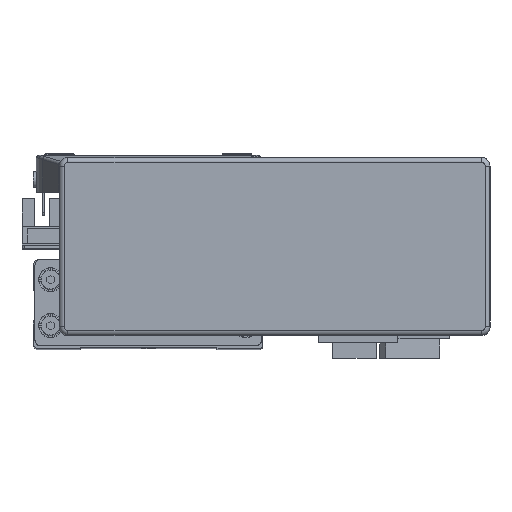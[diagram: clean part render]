
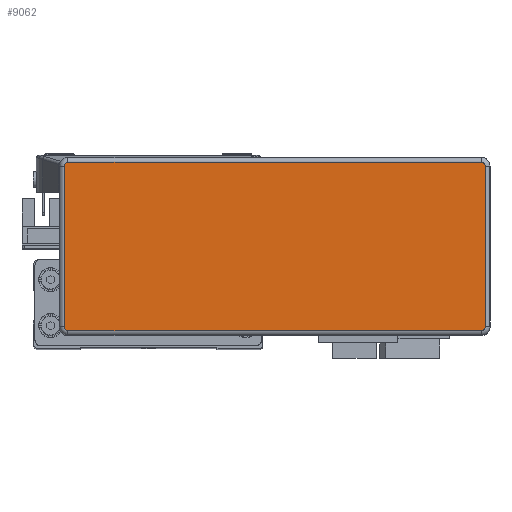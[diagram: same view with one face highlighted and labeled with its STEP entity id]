
A CAD part, top view. The second image highlights one B-rep face of the part: STEP entity #9062.
In plain terms, the highlighted planar face has unit normal (0, 0, 1) as drawn and (0, 0, -1) by its records, which use the part's own axes.
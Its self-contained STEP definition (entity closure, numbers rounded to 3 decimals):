
#3450 = AXIS2_PLACEMENT_3D ( 'NONE', #19296, #19311, #19314 ) ;
#3455 = AXIS2_PLACEMENT_3D ( 'NONE', #19261, #19252, #19265 ) ;
#3494 = AXIS2_PLACEMENT_3D ( 'NONE', #19288, #19295, #19310 ) ;
#3498 = AXIS2_PLACEMENT_3D ( 'NONE', #19138, #19158, #19148 ) ;
#5692 = CARTESIAN_POINT ( 'NONE',  ( -71.995, -29.295, -32.2 ) ) ;
#5701 = CARTESIAN_POINT ( 'NONE',  ( 71.995, 29.295, -32.2 ) ) ;
#5721 = CARTESIAN_POINT ( 'NONE',  ( 71.995, -29.295, -32.2 ) ) ;
#5726 = CARTESIAN_POINT ( 'NONE',  ( -71.995, 29.295, -32.2 ) ) ;
#5782 = CARTESIAN_POINT ( 'NONE',  ( -73.295, -27.995, -32.2 ) ) ;
#5795 = CARTESIAN_POINT ( 'NONE',  ( -73.295, 27.995, -32.2 ) ) ;
#5801 = CARTESIAN_POINT ( 'NONE',  ( 73.295, 27.995, -32.2 ) ) ;
#7759 = VERTEX_POINT ( 'NONE', #41096 ) ;
#7820 = VERTEX_POINT ( 'NONE', #5701 ) ;
#7828 = VERTEX_POINT ( 'NONE', #5692 ) ;
#7831 = VERTEX_POINT ( 'NONE', #5782 ) ;
#7838 = VERTEX_POINT ( 'NONE', #5795 ) ;
#7843 = VERTEX_POINT ( 'NONE', #5721 ) ;
#7847 = VERTEX_POINT ( 'NONE', #5726 ) ;
#7848 = VERTEX_POINT ( 'NONE', #5801 ) ;
#9062 = ADVANCED_FACE ( 'NONE', ( #34721 ), #34039, .F. ) ;
#10455 = EDGE_CURVE ( 'NONE', #7831, #7838, #19531, .T. ) ;
#10456 = EDGE_CURVE ( 'NONE', #7838, #7847, #19547, .T. ) ;
#10464 = EDGE_CURVE ( 'NONE', #7848, #7759, #19528, .T. ) ;
#10477 = EDGE_CURVE ( 'NONE', #7820, #7848, #19629, .T. ) ;
#10490 = EDGE_CURVE ( 'NONE', #7843, #7828, #19580, .T. ) ;
#10494 = EDGE_CURVE ( 'NONE', #7828, #7831, #19582, .T. ) ;
#10498 = EDGE_CURVE ( 'NONE', #7759, #7843, #19577, .T. ) ;
#10507 = EDGE_CURVE ( 'NONE', #7847, #7820, #19627, .T. ) ;
#15736 = AXIS2_PLACEMENT_3D ( 'NONE', #34095, #34113, #34125 ) ;
#17251 = ORIENTED_EDGE ( 'NONE', *, *, #10498, .T. ) ;
#17288 = ORIENTED_EDGE ( 'NONE', *, *, #10464, .T. ) ;
#19138 = CARTESIAN_POINT ( 'NONE',  ( -71.995, 27.995, -32.2 ) ) ;
#19148 = DIRECTION ( 'NONE',  ( 1., 0., 0. ) ) ;
#19156 = DIRECTION ( 'NONE',  ( 0., 1., 0. ) ) ;
#19158 = DIRECTION ( 'NONE',  ( 0., 0., -1. ) ) ;
#19167 = CARTESIAN_POINT ( 'NONE',  ( -73.295, -27.995, -32.2 ) ) ;
#19213 = CARTESIAN_POINT ( 'NONE',  ( 73.295, -27.995, -32.2 ) ) ;
#19223 = DIRECTION ( 'NONE',  ( 0., -1., 0. ) ) ;
#19252 = DIRECTION ( 'NONE',  ( 0., 0., -1. ) ) ;
#19261 = CARTESIAN_POINT ( 'NONE',  ( 71.995, 27.995, -32.2 ) ) ;
#19265 = DIRECTION ( 'NONE',  ( 1., 0., 0. ) ) ;
#19281 = DIRECTION ( 'NONE',  ( -1., 0., 0. ) ) ;
#19288 = CARTESIAN_POINT ( 'NONE',  ( -71.995, -27.995, -32.2 ) ) ;
#19293 = CARTESIAN_POINT ( 'NONE',  ( 71.995, -29.295, -32.2 ) ) ;
#19295 = DIRECTION ( 'NONE',  ( 0., 0., -1. ) ) ;
#19296 = CARTESIAN_POINT ( 'NONE',  ( 71.995, -27.995, -32.2 ) ) ;
#19310 = DIRECTION ( 'NONE',  ( 1., 0., 0. ) ) ;
#19311 = DIRECTION ( 'NONE',  ( 0., 0., -1. ) ) ;
#19314 = DIRECTION ( 'NONE',  ( 1., 0., 0. ) ) ;
#19324 = DIRECTION ( 'NONE',  ( 1., 0., 0. ) ) ;
#19332 = CARTESIAN_POINT ( 'NONE',  ( 71.995, 29.295, -32.2 ) ) ;
#19516 = VECTOR ( 'NONE', #19223, 1000. ) ;
#19522 = VECTOR ( 'NONE', #19156, 1000. ) ;
#19528 = LINE ( 'NONE', #19213, #19516 ) ;
#19531 = LINE ( 'NONE', #19167, #19522 ) ;
#19547 = CIRCLE ( 'NONE', #3498, 1.3 ) ;
#19577 = CIRCLE ( 'NONE', #3450, 1.3 ) ;
#19580 = LINE ( 'NONE', #19293, #19604 ) ;
#19582 = CIRCLE ( 'NONE', #3494, 1.3 ) ;
#19588 = VECTOR ( 'NONE', #19324, 1000. ) ;
#19604 = VECTOR ( 'NONE', #19281, 1000. ) ;
#19627 = LINE ( 'NONE', #19332, #19588 ) ;
#19629 = CIRCLE ( 'NONE', #3455, 1.3 ) ;
#32719 = ORIENTED_EDGE ( 'NONE', *, *, #10455, .T. ) ;
#32729 = EDGE_LOOP ( 'NONE', ( #17288, #17251, #40101, #38523, #32719, #42850, #42196, #42216 ) ) ;
#34039 = PLANE ( 'NONE',  #15736 ) ;
#34095 = CARTESIAN_POINT ( 'NONE',  ( 71.995, -27.995, -32.2 ) ) ;
#34113 = DIRECTION ( 'NONE',  ( 0., 0., 1. ) ) ;
#34125 = DIRECTION ( 'NONE',  ( 1., 0., 0. ) ) ;
#34721 = FACE_OUTER_BOUND ( 'NONE', #32729, .T. ) ;
#38523 = ORIENTED_EDGE ( 'NONE', *, *, #10494, .T. ) ;
#40101 = ORIENTED_EDGE ( 'NONE', *, *, #10490, .T. ) ;
#41096 = CARTESIAN_POINT ( 'NONE',  ( 73.295, -27.995, -32.2 ) ) ;
#42196 = ORIENTED_EDGE ( 'NONE', *, *, #10507, .T. ) ;
#42216 = ORIENTED_EDGE ( 'NONE', *, *, #10477, .T. ) ;
#42850 = ORIENTED_EDGE ( 'NONE', *, *, #10456, .T. ) ;
